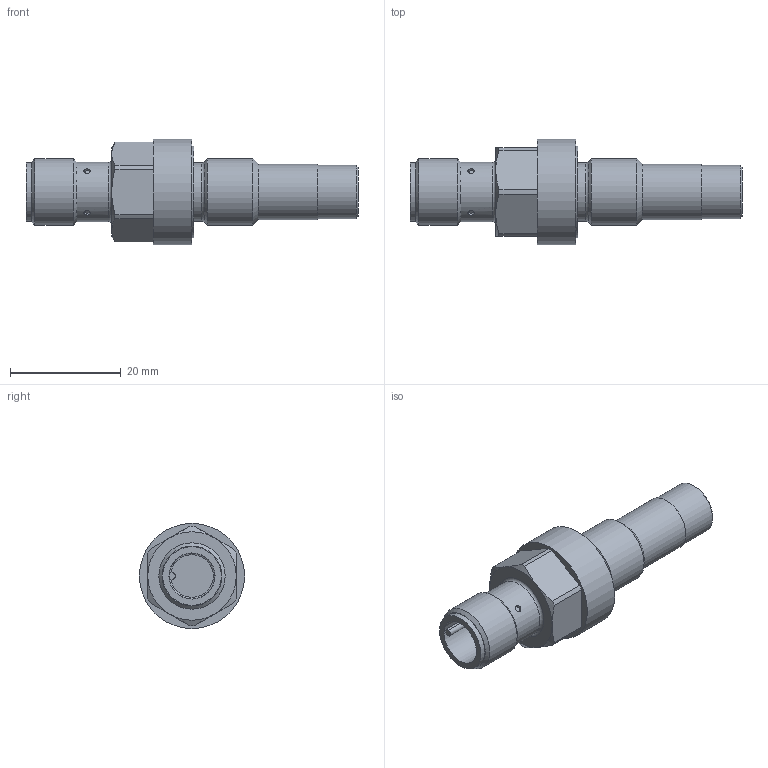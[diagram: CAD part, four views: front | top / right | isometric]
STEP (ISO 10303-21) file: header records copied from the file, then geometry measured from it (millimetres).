
FILE_DESCRIPTION( ( 'STEP AP203' ), '1' );
FILE_NAME( 'p:/temp/worker_215/temp/exporttempdir_560_429_RRjFf/format_1/M9H203.stp', '2019-12-02T10:31:12', ( '' ), ( '' ), ' ', 'PARTsolutions', ' ' );
FILE_SCHEMA( ( 'CONFIG_CONTROL_DESIGN' ) );
Length unit declared in the file: millimetre
Products named in the file (1): _M9H203
Bounding box: 60 x 19 x 19 mm (x, y, z)
Volume: 7393.1 mm3; surface area: 3389.3 mm2
Topology: 1 solids, 1 shells, 64 faces, 129 edges, 79 vertices
Faces by surface type: cylinder 24, plane 23, cone 12, torus 5
Full cylindrical faces by diameter (mm): 1.15 x4, 8.314 x1, 9.7 x1, 10 x1, 10.55 x1, 10.6 x1, 10.73 x1, 11.2 x1, 11.6 x1, 12 x2, 16.5 x1, 16.6 x1, 19 x1
Entity records: 1676 total; most frequent: CARTESIAN_POINT 394, DIRECTION 270, ORIENTED_EDGE 202, AXIS2_PLACEMENT_3D 122, EDGE_LOOP 103, EDGE_CURVE 101, FACE_OUTER_BOUND 85, VERTEX_POINT 78
